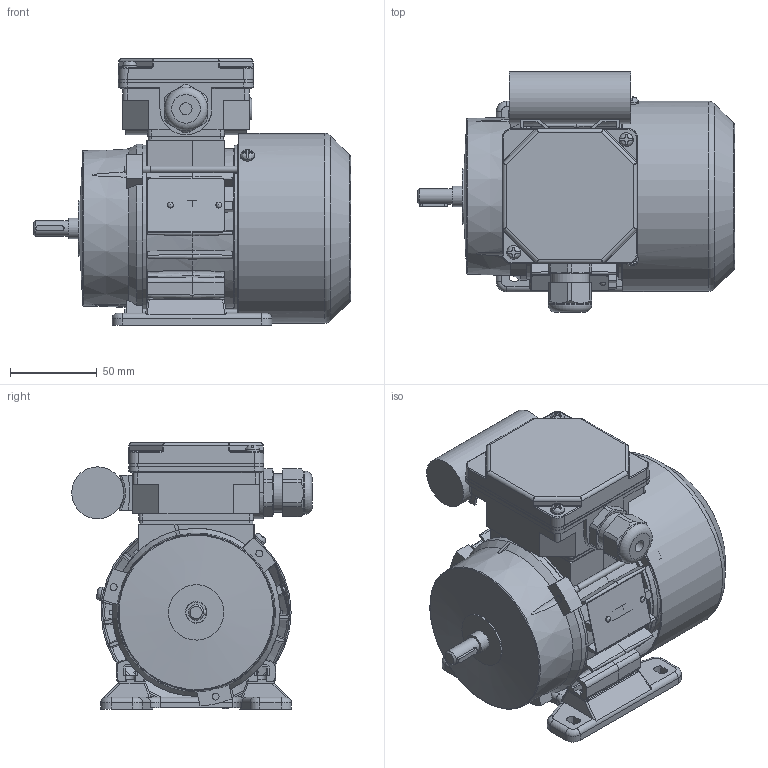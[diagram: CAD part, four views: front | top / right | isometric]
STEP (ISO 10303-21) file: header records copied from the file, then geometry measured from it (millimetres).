
FILE_DESCRIPTION( ( 'Unknown' ), '1' );
FILE_NAME( 'G:/Poczta Tk-1/STP/w.m.56/SEh56/SE(M)h56-A.stp', 'Unknown', ( 'K. Szlosek' ), ( 'BESEL S.A.' ), 'PSStep 17.0.49', 'Unknown', ' ' );
FILE_SCHEMA( ( 'AUTOMOTIVE_DESIGN { 1 0 10303 214 1 1 1 1 }' ) );
Length unit declared in the file: millimetre
Products named in the file (32): Assem1; K4-2320 Uszczelka nr 1 Sh71,80; K3-9987 kadłub ze stojanem Sh56-B; K3-2193 Tarcza łożyskowa P Sg56-2..; K3-9990 wał Sh56-B; K2-0860 Pokrywka skrzynki zaciskowej; Wpust A3x3x16; K4-2820 Uszczelka nr 2 Sh71,80; Wkręt samogwintujący M4x8; Wkręt samogwintujący M4x16; K2-0879 Przewietrznik Sg56; Nitokołek A 2x6; K3-9440 Podstawa  skrzynki zaciskowej SEhR71-D; K4-0898 Tulejka uszczelniająca; K3-1974 Uchwyt kondensatora (mały); Kondensator bb 8uF; K3-2200 Tarcza łożyskowa N Sg56-...; K1-0484 Łapa Sg56-.. w. robocza; K3-11363 Osłona przewietrznika Sh 56_A; Śruba ściągająca E_M4x75; Tabliczka znamionowa 32x44; Łożysko 6201; Dławnica M20x1,5
Assembly tree (47 placements, depth 2):
  Assem1
    K4-2320 Uszczelka nr 1 Sh71,80
    K3-9987 kadłub ze stojanem Sh56-B
    K3-2193 Tarcza łożyskowa P Sg56-2..
    K3-9990 wał Sh56-B
    K2-0860 Pokrywka skrzynki zaciskowej
    Wpust A3x3x16
    K4-2820 Uszczelka nr 2 Sh71,80
    Wkręt samogwintujący M4x8  x3
    Wkręt samogwintujący M4x16  x2
    K2-0879 Przewietrznik Sg56
    Nitokołek A 2x6  x2
    K3-9440 Podstawa  skrzynki zaciskowej SEhR71-D
    K4-0898 Tulejka uszczelniająca
    K3-1974 Uchwyt kondensatora (mały)
    Kondensator bb 8uF
    K3-2200 Tarcza łożyskowa N Sg56-...
    K1-0484 Łapa Sg56-.. w. robocza
    K3-11363 Osłona przewietrznika Sh 56_A
    Śruba ściągająca E_M4x75  x3
    Tabliczka znamionowa 32x44
    Łożysko 6201  x2
    Łożysko 6201  x2
    Łożysko 6201  x2
    Łożysko 6201  x2
    Łożysko 6201  x2
    Łożysko 6201  x2
    Łożysko 6201  x2
    Łożysko 6201  x2
    Łożysko 6201  x2
    Łożysko 6201  x2
    Dławnica M20x1,5
Bounding box: 183 x 138.82 x 154 mm (x, y, z)
Volume: 469041.9 mm3; surface area: 313032.6 mm2
Topology: 47 solids, 63 shells, 1931 faces, 5243 edges, 3396 vertices
Faces by surface type: plane 1015, cylinder 553, torus 139, cone 120, bspline 70, sphere 34
Full cylindrical faces by diameter (mm): 2 x2, 2.4 x2, 3 x1, 3.3 x3, 3.5 x2, 3.7 x10, 4 x8, 4.5 x4, 4.6 x2, 4.8 x4, 5 x4, 5.8 x4, 6.5 x1, 7 x4, 8 x6, 9 x1, 10 x2, 10.9 x1, 11 x1, 11.5 x1, 11.8 x2, 12 x4, 12.4 x2, 15.5 x1, 16 x1, 16.1 x1, 17 x2, 18 x1, 18.38 x1, 18.5 x1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
Entity records: 78874 total; most frequent: CARTESIAN_POINT 20988, ORIENTED_EDGE 9114, DIRECTION 9084, EDGE_CURVE 4557, AXIS2_PLACEMENT_3D 3364, VERTEX_POINT 3081, LINE 2356, VECTOR 2356
